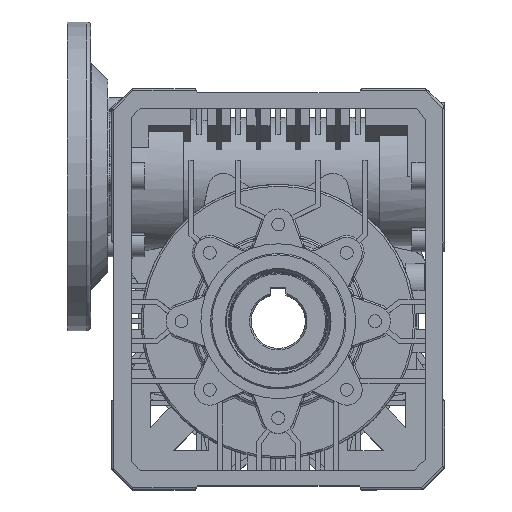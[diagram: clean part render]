
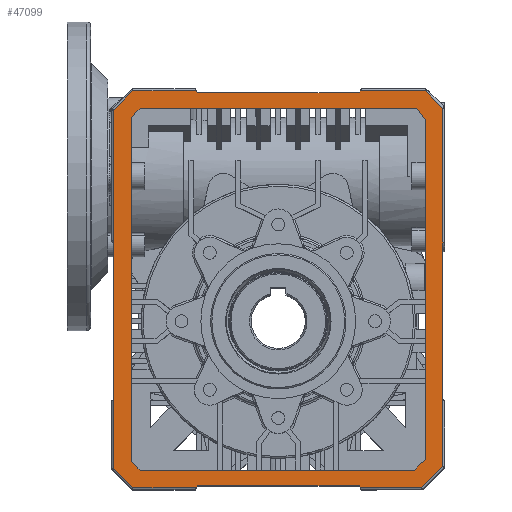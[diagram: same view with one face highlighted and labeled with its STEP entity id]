
A CAD part, top view. The second image highlights one B-rep face of the part: STEP entity #47099.
In plain terms, the highlighted planar face has unit normal (0, 0, 1).
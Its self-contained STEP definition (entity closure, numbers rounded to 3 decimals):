
#39994=CARTESIAN_POINT('',(-85.0,41.577,112.));
#39995=VERTEX_POINT('',#39994);
#42390=CARTESIAN_POINT('',(-42.423,119.0,112.));
#42391=VERTEX_POINT('',#42390);
#42399=CARTESIAN_POINT('',(-41.845,118.0,112.));
#42400=VERTEX_POINT('',#42399);
#42401=CARTESIAN_POINT('',(-41.845,118.0,112.));
#42402=DIRECTION('',(-0.5,0.866,0.0));
#42403=VECTOR('',#42402,1.155);
#42404=LINE('',#42401,#42403);
#42405=EDGE_CURVE('',#42400,#42391,#42404,.T.);
#42688=CARTESIAN_POINT('',(-85.,-40.423,112.));
#42689=VERTEX_POINT('',#42688);
#46508=CARTESIAN_POINT('',(85.0,-40.423,112.));
#46509=VERTEX_POINT('',#46508);
#46517=CARTESIAN_POINT('',(85.,-75.086,112.));
#46518=VERTEX_POINT('',#46517);
#46519=CARTESIAN_POINT('',(85.,-40.423,112.));
#46520=DIRECTION('',(0.0,-1.0,0.0));
#46521=VECTOR('',#46520,34.663);
#46522=LINE('',#46519,#46521);
#46523=EDGE_CURVE('',#46509,#46518,#46522,.T.);
#46548=CARTESIAN_POINT('',(74.086,-86.,112.));
#46549=VERTEX_POINT('',#46548);
#46550=CARTESIAN_POINT('',(85.,-75.086,112.));
#46551=DIRECTION('',(-0.707,-0.707,0.0));
#46552=VECTOR('',#46551,15.435);
#46553=LINE('',#46550,#46552);
#46554=EDGE_CURVE('',#46518,#46549,#46553,.T.);
#46572=CARTESIAN_POINT('',(42.423,-86.,112.));
#46573=VERTEX_POINT('',#46572);
#46589=CARTESIAN_POINT('',(74.086,-86.,112.));
#46590=DIRECTION('',(-1.0,0.0,0.0));
#46591=VECTOR('',#46590,31.663);
#46592=LINE('',#46589,#46591);
#46593=EDGE_CURVE('',#46549,#46573,#46592,.T.);
#46625=CARTESIAN_POINT('',(-42.423,-86.0,112.));
#46626=VERTEX_POINT('',#46625);
#46634=CARTESIAN_POINT('',(-75.086,-86.,112.));
#46635=VERTEX_POINT('',#46634);
#46636=CARTESIAN_POINT('',(-42.423,-86.0,112.));
#46637=DIRECTION('',(-1.0,0.0,0.0));
#46638=VECTOR('',#46637,32.663);
#46639=LINE('',#46636,#46638);
#46640=EDGE_CURVE('',#46626,#46635,#46639,.T.);
#46665=CARTESIAN_POINT('',(-85.,-76.086,112.));
#46666=VERTEX_POINT('',#46665);
#46667=CARTESIAN_POINT('',(-75.086,-86.,112.));
#46668=DIRECTION('',(-0.707,0.707,0.0));
#46669=VECTOR('',#46668,14.021);
#46670=LINE('',#46667,#46669);
#46671=EDGE_CURVE('',#46635,#46666,#46670,.T.);
#46698=CARTESIAN_POINT('',(-85.0,-76.086,112.));
#46699=DIRECTION('',(0.0,1.0,0.0));
#46700=VECTOR('',#46699,35.663);
#46701=LINE('',#46698,#46700);
#46702=EDGE_CURVE('',#46666,#42689,#46701,.T.);
#46735=CARTESIAN_POINT('',(-85.0,109.086,112.));
#46736=VERTEX_POINT('',#46735);
#46737=CARTESIAN_POINT('',(-85.0,41.577,112.));
#46738=DIRECTION('',(0.0,1.0,0.0));
#46739=VECTOR('',#46738,67.508);
#46740=LINE('',#46737,#46739);
#46741=EDGE_CURVE('',#39995,#46736,#46740,.T.);
#46766=CARTESIAN_POINT('',(-75.086,119.0,112.));
#46767=VERTEX_POINT('',#46766);
#46768=CARTESIAN_POINT('',(-85.,109.086,112.));
#46769=DIRECTION('',(0.707,0.707,0.0));
#46770=VECTOR('',#46769,14.021);
#46771=LINE('',#46768,#46770);
#46772=EDGE_CURVE('',#46736,#46767,#46771,.T.);
#46799=CARTESIAN_POINT('',(-75.086,119.0,112.));
#46800=DIRECTION('',(1.0,0.0,0.0));
#46801=VECTOR('',#46800,32.663);
#46802=LINE('',#46799,#46801);
#46803=EDGE_CURVE('',#46767,#42391,#46802,.T.);
#46835=CARTESIAN_POINT('',(42.423,119.0,112.));
#46836=VERTEX_POINT('',#46835);
#46844=CARTESIAN_POINT('',(76.086,119.0,112.));
#46845=VERTEX_POINT('',#46844);
#46846=CARTESIAN_POINT('',(42.423,119.0,112.));
#46847=DIRECTION('',(1.0,0.0,0.0));
#46848=VECTOR('',#46847,33.663);
#46849=LINE('',#46846,#46848);
#46850=EDGE_CURVE('',#46836,#46845,#46849,.T.);
#46875=CARTESIAN_POINT('',(85.,110.086,112.));
#46876=VERTEX_POINT('',#46875);
#46877=CARTESIAN_POINT('',(76.086,119.0,112.));
#46878=DIRECTION('',(0.707,-0.707,0.0));
#46879=VECTOR('',#46878,12.607);
#46880=LINE('',#46877,#46879);
#46881=EDGE_CURVE('',#46845,#46876,#46880,.T.);
#46910=CARTESIAN_POINT('',(85.,40.423,112.));
#46911=VERTEX_POINT('',#46910);
#46927=CARTESIAN_POINT('',(85.,110.086,112.));
#46928=DIRECTION('',(0.0,-1.0,0.0));
#46929=VECTOR('',#46928,69.663);
#46930=LINE('',#46927,#46929);
#46931=EDGE_CURVE('',#46876,#46911,#46930,.T.);
#46965=CARTESIAN_POINT('',(0.672,17.481,112.));
#46966=DIRECTION('',(0.0,0.0,1.0));
#46967=DIRECTION('',(1.0,0.0,0.0));
#46968=AXIS2_PLACEMENT_3D('',#46965,#46966,#46967);
#46969=PLANE('',#46968);
#46970=ORIENTED_EDGE('',*,*,#46523,.F.);
#46971=CARTESIAN_POINT('',(85.0,-40.423,112.));
#46972=DIRECTION('',(0.0,1.0,0.0));
#46973=VECTOR('',#46972,80.845);
#46974=LINE('',#46971,#46973);
#46975=EDGE_CURVE('',#46509,#46911,#46974,.T.);
#46976=ORIENTED_EDGE('',*,*,#46975,.T.);
#46977=ORIENTED_EDGE('',*,*,#46931,.F.);
#46978=ORIENTED_EDGE('',*,*,#46881,.F.);
#46979=ORIENTED_EDGE('',*,*,#46850,.F.);
#46980=CARTESIAN_POINT('',(41.845,118.0,112.));
#46981=VERTEX_POINT('',#46980);
#46982=CARTESIAN_POINT('',(42.423,119.,112.));
#46983=DIRECTION('',(-0.5,-0.866,0.0));
#46984=VECTOR('',#46983,1.155);
#46985=LINE('',#46982,#46984);
#46986=EDGE_CURVE('',#46836,#46981,#46985,.T.);
#46987=ORIENTED_EDGE('',*,*,#46986,.T.);
#46988=CARTESIAN_POINT('',(41.845,118.0,112.));
#46989=DIRECTION('',(-1.0,0.0,0.0));
#46990=VECTOR('',#46989,83.691);
#46991=LINE('',#46988,#46990);
#46992=EDGE_CURVE('',#46981,#42400,#46991,.T.);
#46993=ORIENTED_EDGE('',*,*,#46992,.T.);
#46994=ORIENTED_EDGE('',*,*,#42405,.T.);
#46995=ORIENTED_EDGE('',*,*,#46803,.F.);
#46996=ORIENTED_EDGE('',*,*,#46772,.F.);
#46997=ORIENTED_EDGE('',*,*,#46741,.F.);
#46998=CARTESIAN_POINT('',(-85.0,-40.423,112.));
#46999=DIRECTION('',(0.0,1.0,0.0));
#47000=VECTOR('',#46999,82.0);
#47001=LINE('',#46998,#47000);
#47002=EDGE_CURVE('',#42689,#39995,#47001,.T.);
#47003=ORIENTED_EDGE('',*,*,#47002,.F.);
#47004=ORIENTED_EDGE('',*,*,#46702,.F.);
#47005=ORIENTED_EDGE('',*,*,#46671,.F.);
#47006=ORIENTED_EDGE('',*,*,#46640,.F.);
#47007=CARTESIAN_POINT('',(-41.845,-85.,112.));
#47008=VERTEX_POINT('',#47007);
#47009=CARTESIAN_POINT('',(-42.423,-86.0,112.));
#47010=DIRECTION('',(0.5,0.866,0.0));
#47011=VECTOR('',#47010,1.155);
#47012=LINE('',#47009,#47011);
#47013=EDGE_CURVE('',#46626,#47008,#47012,.T.);
#47014=ORIENTED_EDGE('',*,*,#47013,.T.);
#47015=CARTESIAN_POINT('',(41.845,-85.,112.));
#47016=VERTEX_POINT('',#47015);
#47017=CARTESIAN_POINT('',(-41.845,-85.,112.));
#47018=DIRECTION('',(1.0,0.0,0.0));
#47019=VECTOR('',#47018,83.691);
#47020=LINE('',#47017,#47019);
#47021=EDGE_CURVE('',#47008,#47016,#47020,.T.);
#47022=ORIENTED_EDGE('',*,*,#47021,.T.);
#47023=CARTESIAN_POINT('',(41.845,-85.0,112.));
#47024=DIRECTION('',(0.5,-0.866,0.0));
#47025=VECTOR('',#47024,1.155);
#47026=LINE('',#47023,#47025);
#47027=EDGE_CURVE('',#47016,#46573,#47026,.T.);
#47028=ORIENTED_EDGE('',*,*,#47027,.T.);
#47029=ORIENTED_EDGE('',*,*,#46593,.F.);
#47030=ORIENTED_EDGE('',*,*,#46554,.F.);
#47031=EDGE_LOOP('',(#46970,#46976,#46977,#46978,#46979,#46987,#46993,#46994,#46995,#46996,#46997,#47003,#47004,#47005,#47006,#47014,#47022,#47028,#47029,#47030));
#47032=FACE_OUTER_BOUND('',#47031,.T.);
#47033=CARTESIAN_POINT('',(76.,104.358,112.));
#47034=VERTEX_POINT('',#47033);
#47035=CARTESIAN_POINT('',(76.,-71.358,112.));
#47036=VERTEX_POINT('',#47035);
#47037=CARTESIAN_POINT('',(76.,104.358,112.));
#47038=DIRECTION('',(0.0,-1.0,0.0));
#47039=VECTOR('',#47038,175.716);
#47040=LINE('',#47037,#47039);
#47041=EDGE_CURVE('',#47034,#47036,#47040,.T.);
#47042=ORIENTED_EDGE('',*,*,#47041,.T.);
#47043=CARTESIAN_POINT('',(70.358,-77.,112.));
#47044=VERTEX_POINT('',#47043);
#47045=CARTESIAN_POINT('',(76.,-71.358,112.));
#47046=DIRECTION('',(-0.707,-0.707,0.0));
#47047=VECTOR('',#47046,7.979);
#47048=LINE('',#47045,#47047);
#47049=EDGE_CURVE('',#47036,#47044,#47048,.T.);
#47050=ORIENTED_EDGE('',*,*,#47049,.T.);
#47051=CARTESIAN_POINT('',(-71.358,-77.,112.));
#47052=VERTEX_POINT('',#47051);
#47053=CARTESIAN_POINT('',(70.358,-77.,112.));
#47054=DIRECTION('',(-1.0,0.0,0.0));
#47055=VECTOR('',#47054,141.716);
#47056=LINE('',#47053,#47055);
#47057=EDGE_CURVE('',#47044,#47052,#47056,.T.);
#47058=ORIENTED_EDGE('',*,*,#47057,.T.);
#47059=CARTESIAN_POINT('',(-76.0,-72.358,112.));
#47060=VERTEX_POINT('',#47059);
#47061=CARTESIAN_POINT('',(-71.358,-77.,112.));
#47062=DIRECTION('',(-0.707,0.707,0.0));
#47063=VECTOR('',#47062,6.565);
#47064=LINE('',#47061,#47063);
#47065=EDGE_CURVE('',#47052,#47060,#47064,.T.);
#47066=ORIENTED_EDGE('',*,*,#47065,.T.);
#47067=CARTESIAN_POINT('',(-76.0,105.358,112.));
#47068=VERTEX_POINT('',#47067);
#47069=CARTESIAN_POINT('',(-76.0,-72.358,112.));
#47070=DIRECTION('',(0.0,1.0,0.0));
#47071=VECTOR('',#47070,177.716);
#47072=LINE('',#47069,#47071);
#47073=EDGE_CURVE('',#47060,#47068,#47072,.T.);
#47074=ORIENTED_EDGE('',*,*,#47073,.T.);
#47075=CARTESIAN_POINT('',(-71.358,110.0,112.));
#47076=VERTEX_POINT('',#47075);
#47077=CARTESIAN_POINT('',(-76.0,105.358,112.));
#47078=DIRECTION('',(0.707,0.707,0.0));
#47079=VECTOR('',#47078,6.565);
#47080=LINE('',#47077,#47079);
#47081=EDGE_CURVE('',#47068,#47076,#47080,.T.);
#47082=ORIENTED_EDGE('',*,*,#47081,.T.);
#47083=CARTESIAN_POINT('',(71.358,110.0,112.));
#47084=VERTEX_POINT('',#47083);
#47085=CARTESIAN_POINT('',(-71.358,110.0,112.));
#47086=DIRECTION('',(1.0,0.0,0.0));
#47087=VECTOR('',#47086,142.716);
#47088=LINE('',#47085,#47087);
#47089=EDGE_CURVE('',#47076,#47084,#47088,.T.);
#47090=ORIENTED_EDGE('',*,*,#47089,.T.);
#47091=CARTESIAN_POINT('',(71.358,110.0,112.));
#47092=DIRECTION('',(0.635,-0.772,0.0));
#47093=VECTOR('',#47092,7.306);
#47094=LINE('',#47091,#47093);
#47095=EDGE_CURVE('',#47084,#47034,#47094,.T.);
#47096=ORIENTED_EDGE('',*,*,#47095,.T.);
#47097=EDGE_LOOP('',(#47042,#47050,#47058,#47066,#47074,#47082,#47090,#47096));
#47098=FACE_BOUND('',#47097,.T.);
#47099=ADVANCED_FACE('',(#47032,#47098),#46969,.T.);
